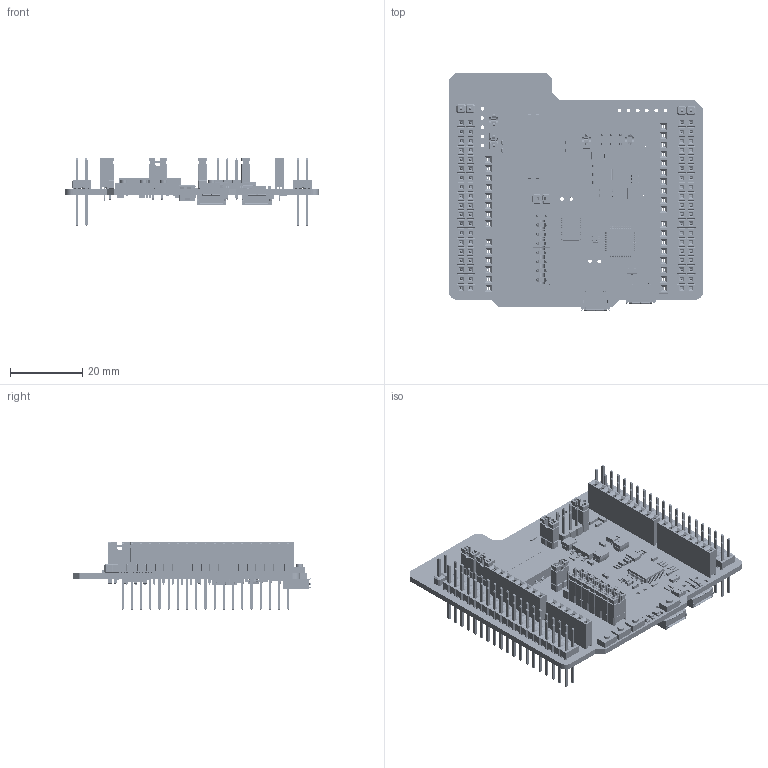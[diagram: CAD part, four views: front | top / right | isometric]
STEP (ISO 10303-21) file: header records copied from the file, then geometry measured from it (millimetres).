
FILE_DESCRIPTION(('Open CASCADE Model'),'2;1');
FILE_NAME('Open CASCADE Shape Model','2021-01-07T19:30:34',('Author'),( 'Open CASCADE'),'Open CASCADE STEP processor 6.8','Open CASCADE 6.8' ,'Unknown');
FILE_SCHEMA(('AUTOMOTIVE_DESIGN { 1 0 10303 214 1 1 1 1 }'));
Length unit declared in the file: millimetre
Products named in the file (302): PCB; Board; Open CASCADE STEP translator 6.8 3.1.1; L5; INDC1005X50-MURATA_LQW15A; 6138207488; Extruded; U13; 6138206688; 6138206288; Cylinder; U12; 6139501344; U11; SW5; SWI_MLL1200S; 6138207248; JP6; 1x2x2.54_Pin_Header_TH__V; 1x1x2.54_Pin_Header_TH_V; JMP12; Jumper_2_54mm; Q1; sot23-3; 6138510960; C32; 6139112768; 6139112368; U1; 6138210928; 6138210528; SC4; Shield_clip_s0951-46; SC3; SC2; SC1; SW3; 6138507920; 6138507680; SW2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
Assembly tree (601 placements, depth 4):
  PCB
    Board
      Open CASCADE STEP translator 6.8 3.1.1
    L5
      INDC1005X50-MURATA_LQW15A
      6138207488
        Extruded
    U13
      6138206688
        Extruded
      6138206288
        Cylinder
    U12
      6139501344
        Extruded
    U11
      6138206688
        Extruded
      6138206288
        Cylinder
    SW5
      SWI_MLL1200S
      6138207248
        Extruded
    JP6
      1x2x2.54_Pin_Header_TH__V
        1x1x2.54_Pin_Header_TH_V  x2
    JMP12
      Jumper_2_54mm
    Q1
      sot23-3
      6138510960
        Cylinder
    C32
      6139112768  x2
        Extruded
      6139112368
        Extruded
    U1
      6138210928
        Extruded
      6138210528
        Cylinder
    SC4
      Shield_clip_s0951-46
    SC3
      Shield_clip_s0951-46
    SC2
      Shield_clip_s0951-46
    SC1
      Shield_clip_s0951-46
    SW3
      6138507920
        Cylinder
      6138507680
        Extruded
    SW2
      6138507920
        Cylinder
      6138507680
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Bounding box: 70.13 x 65.69 x 18.7 mm (x, y, z)
Volume: 11052.4 mm3; surface area: 28275.6 mm2
Topology: 415 solids, 421 shells, 14431 faces, 35612 edges, 21883 vertices
Faces by surface type: plane 10762, cylinder 2577, bspline 1032, sphere 40, revolution 16, cone 4
Full cylindrical faces by diameter (mm): 0.2 x3, 0.3 x2, 0.4 x2, 0.5 x2, 0.6 x1, 0.9 x6, 1 x159, 1.9 x4
Entity records: 222617 total; most frequent: CARTESIAN_POINT 36850, ORIENTED_EDGE 29048, DIRECTION 28432, EDGE_CURVE 14525, LINE 12586, VECTOR 12586, VERTEX_POINT 9119, AXIS2_PLACEMENT_3D 7919
